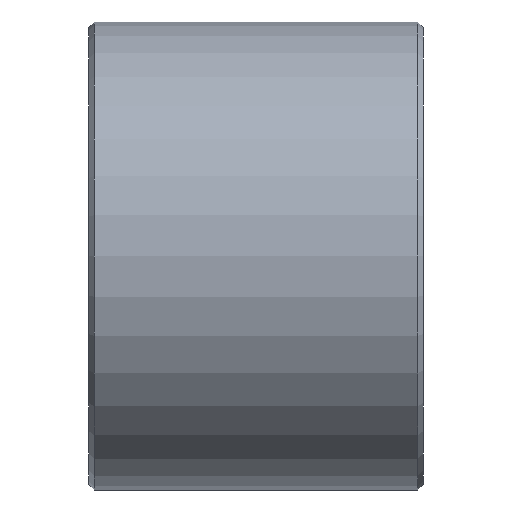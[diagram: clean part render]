
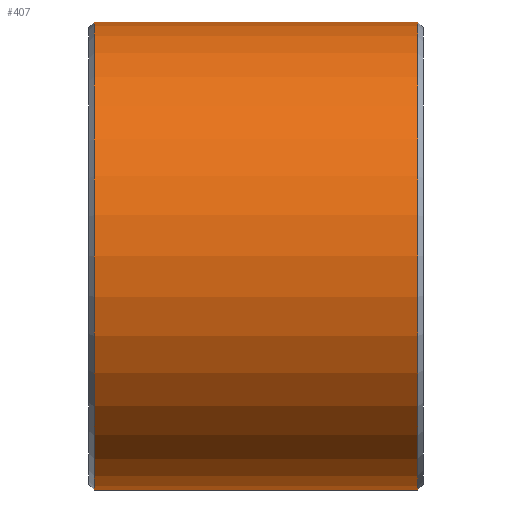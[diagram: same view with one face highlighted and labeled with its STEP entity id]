
A CAD part, front view. The second image highlights one B-rep face of the part: STEP entity #407.
In plain terms, the highlighted cylindrical face has radius 11.113 mm (diameter 22.225 mm), a partial arc.
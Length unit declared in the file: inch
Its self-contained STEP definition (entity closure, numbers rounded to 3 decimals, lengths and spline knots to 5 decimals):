
#5 = DIRECTION ( 'NONE',  ( 0., 0., -1. ) ) ;
#93 = DIRECTION ( 'NONE',  ( 1., 0., 0. ) ) ;
#95 = CARTESIAN_POINT ( 'NONE',  ( 0.01, 0., 0. ) ) ;
#105 = VERTEX_POINT ( 'NONE', #132 ) ;
#132 = CARTESIAN_POINT ( 'NONE',  ( 0.01, 0., -0.4375 ) ) ;
#138 = CARTESIAN_POINT ( 'NONE',  ( 0.615, 0., 0.4375 ) ) ;
#193 = VERTEX_POINT ( 'NONE', #138 ) ;
#204 = CIRCLE ( 'NONE', #532, 0.4375 ) ;
#206 = ORIENTED_EDGE ( 'NONE', *, *, #657, .T. ) ;
#216 = CARTESIAN_POINT ( 'NONE',  ( 0.625, 0., 0.4375 ) ) ;
#218 = DIRECTION ( 'NONE',  ( 0., 0., -1. ) ) ;
#220 = DIRECTION ( 'NONE',  ( -1., 0., 0. ) ) ;
#224 = CARTESIAN_POINT ( 'NONE',  ( 0.615, 0., 0. ) ) ;
#227 = ORIENTED_EDGE ( 'NONE', *, *, #630, .T. ) ;
#231 = DIRECTION ( 'NONE',  ( -1., 0., 0. ) ) ;
#237 = DIRECTION ( 'NONE',  ( -1., 0., 0. ) ) ;
#239 = CARTESIAN_POINT ( 'NONE',  ( 0.625, 0., -0.4375 ) ) ;
#269 = VECTOR ( 'NONE', #237, 39.37008 ) ;
#273 = CIRCLE ( 'NONE', #555, 0.4375 ) ;
#344 = FACE_OUTER_BOUND ( 'NONE', #499, .T. ) ;
#354 = ORIENTED_EDGE ( 'NONE', *, *, #634, .T. ) ;
#372 = VECTOR ( 'NONE', #231, 39.37008 ) ;
#390 = VERTEX_POINT ( 'NONE', #651 ) ;
#396 = LINE ( 'NONE', #216, #372 ) ;
#406 = LINE ( 'NONE', #239, #269 ) ;
#407 = ADVANCED_FACE ( 'NONE', ( #344 ), #501, .T. ) ;
#410 = VERTEX_POINT ( 'NONE', #517 ) ;
#422 = ORIENTED_EDGE ( 'NONE', *, *, #627, .F. ) ;
#468 = AXIS2_PLACEMENT_3D ( 'NONE', #609, #658, #522 ) ;
#499 = EDGE_LOOP ( 'NONE', ( #422, #227, #354, #206 ) ) ;
#501 = CYLINDRICAL_SURFACE ( 'NONE', #468, 0.4375 ) ;
#517 = CARTESIAN_POINT ( 'NONE',  ( 0.01, 0., 0.4375 ) ) ;
#522 = DIRECTION ( 'NONE',  ( 0., 0., 1. ) ) ;
#532 = AXIS2_PLACEMENT_3D ( 'NONE', #95, #93, #5 ) ;
#555 = AXIS2_PLACEMENT_3D ( 'NONE', #224, #220, #218 ) ;
#609 = CARTESIAN_POINT ( 'NONE',  ( 0.625, 0., 0. ) ) ;
#627 = EDGE_CURVE ( 'NONE', #390, #105, #406, .T. ) ;
#630 = EDGE_CURVE ( 'NONE', #390, #193, #273, .T. ) ;
#634 = EDGE_CURVE ( 'NONE', #193, #410, #396, .T. ) ;
#651 = CARTESIAN_POINT ( 'NONE',  ( 0.615, 0., -0.4375 ) ) ;
#657 = EDGE_CURVE ( 'NONE', #410, #105, #204, .T. ) ;
#658 = DIRECTION ( 'NONE',  ( -1., 0., 0. ) ) ;
